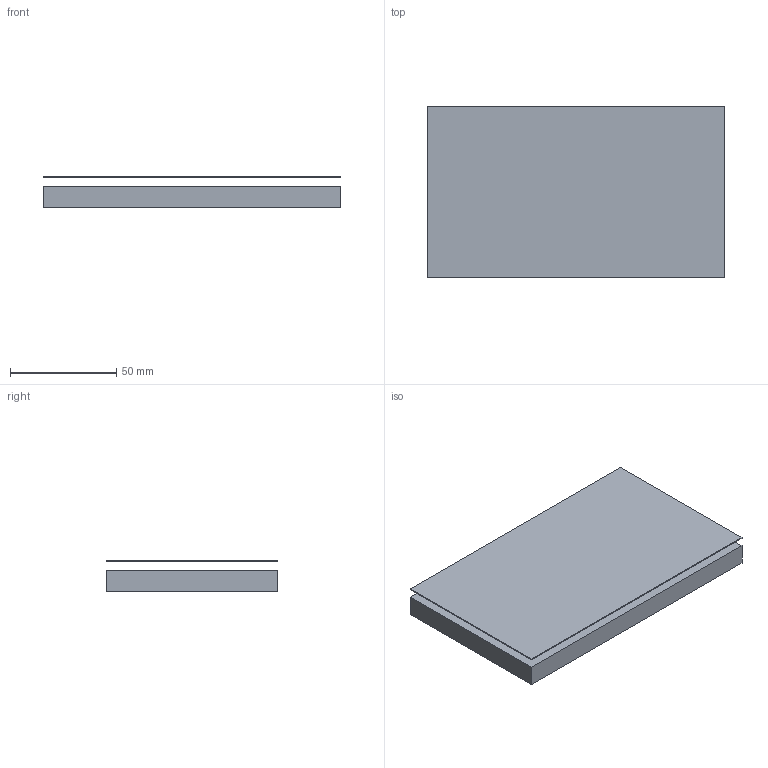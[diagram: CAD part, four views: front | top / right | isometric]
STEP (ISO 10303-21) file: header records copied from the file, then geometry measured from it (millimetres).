
FILE_DESCRIPTION(('Open CASCADE Model'),'2;1');
FILE_NAME('Open CASCADE Shape Model','2026-11-03T16:02:57',('Author'),( 'Open CASCADE'),'Open CASCADE STEP processor 8.0','build123d', 'Unknown');
FILE_SCHEMA(('AUTOMOTIVE_DESIGN { 1 0 10303 214 1 1 1 1 }'));
Length unit declared in the file: millimetre
Products named in the file (1): COMPOUND
Bounding box: 140.35 x 81 x 14.75 mm (x, y, z)
Volume: 96292.9 mm3; surface area: 66329.1 mm2
Topology: 2 solids, 2 shells, 21 faces, 48 edges, 32 vertices
Faces by surface type: plane 21
Entity records: 1208 total; most frequent: CARTESIAN_POINT 204, DIRECTION 182, LINE 138, VECTOR 138, ORIENTED_EDGE 96, PCURVE 96, DEFINITIONAL_REPRESENTATION 96, EDGE_CURVE 48
